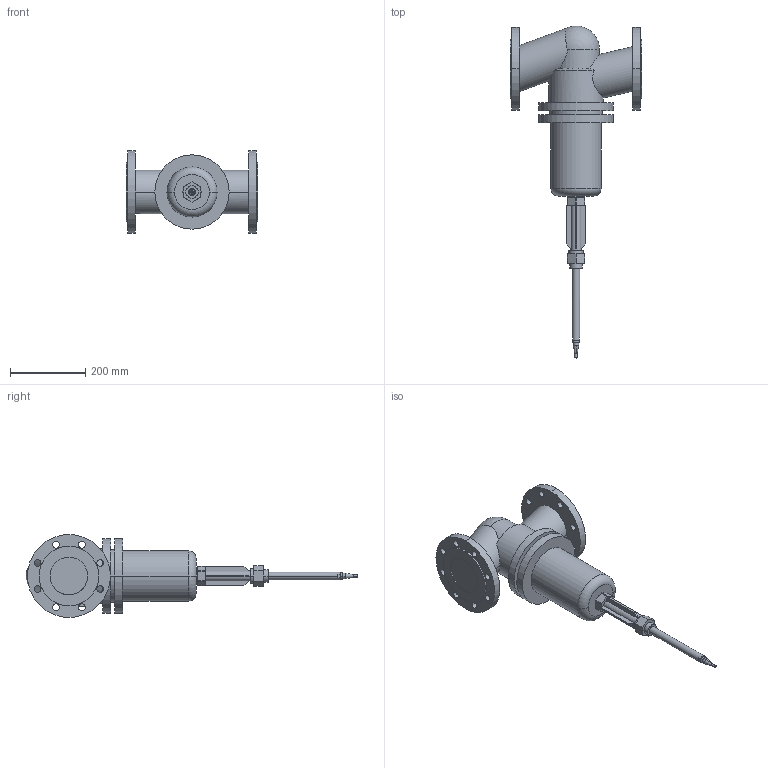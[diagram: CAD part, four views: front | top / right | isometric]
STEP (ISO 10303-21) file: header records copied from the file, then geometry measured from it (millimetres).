
FILE_DESCRIPTION(('CoCreate Modeling STEP Export'),'2;1');
FILE_NAME('c000004780.stp','2011-09-22T10:49:22',(''),(''),'CoCreate Modeling STEP processor for AP214 (Solid Model)','CoCreate Modeling 17.0 01-Apr-2010 (C) Parametric Technology GmbH','');
FILE_SCHEMA(('AUTOMOTIVE_DESIGN { 1 0 10303 214 1 1 1 1 }'));
Length unit declared in the file: millimetre
Products named in the file (1): 1
Bounding box: 350 x 880.91 x 220 mm (x, y, z)
Volume: 10611538.5 mm3; surface area: 544002.9 mm2
Topology: 1 solids, 1 shells, 174 faces, 438 edges, 285 vertices
Faces by surface type: cylinder 88, plane 72, cone 10, torus 2, sphere 2
Entity records: 6349 total; most frequent: CARTESIAN_POINT 1086, ORIENTED_EDGE 872, DIRECTION 703, EDGE_CURVE 436, VERTEX_POINT 285, AXIS2_PLACEMENT_3D 247, EDGE_LOOP 227, VECTOR 209
